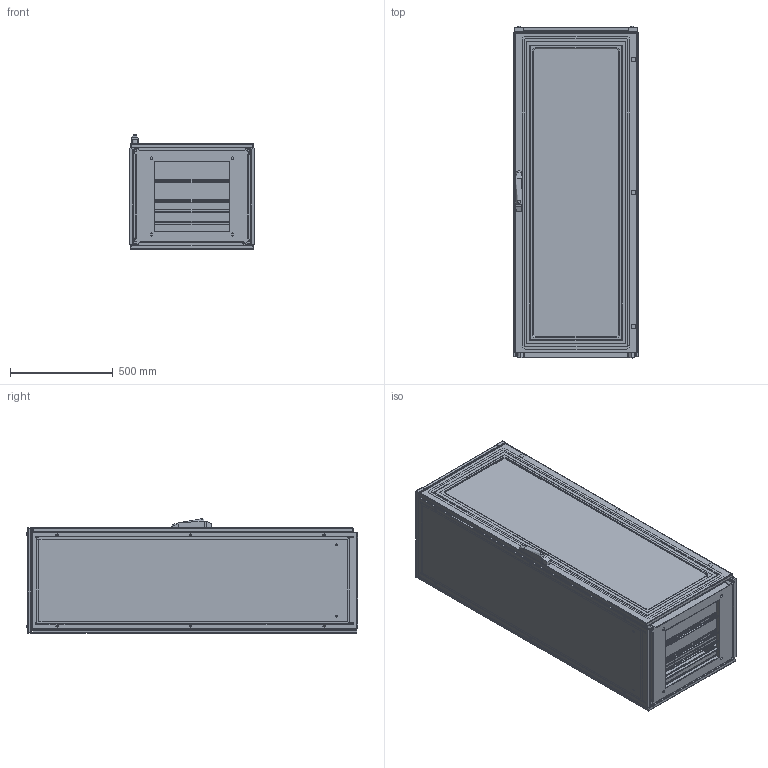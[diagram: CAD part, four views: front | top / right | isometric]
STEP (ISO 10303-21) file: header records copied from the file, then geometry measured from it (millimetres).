
FILE_DESCRIPTION (( 'STEP AP203' ), '1' );
FILE_NAME ('ENUX061605PV.STEP', '2025-05-29T08:10:50', ( '' ), ( '' ), 'SwSTEP 2.0', 'SolidWorks 2022', '' );
FILE_SCHEMA (( 'CONFIG_CONTROL_DESIGN' ));
Length unit declared in the file: millimetre
Products named in the file (13): AR_ENUX_Tetto_0600x0500; AR_ENUX_Retro_singolo_0600x1600; AR_ENUX_montaggio_porta_singlola_plexi_0600x1600_ANT_DX; AR_ENUX_nuova_maniglia_mesan; AR_ENUX_Tegolino_0600x0100; AR_ENUX_Porta_singola_plexi_0600x1600_ANT; AR_ENUX_Tegolino_0600x0050; ENUX061605PV; AR_ENUX_Fianco_0500x1600_SX; AR_ENUX_Vite_tetto; AR_ENUX_Fianco_0500x1600_DX; AR_ENUX_Plexiglass_porte_0600X1600; AR_ENUX_Struttura_0600x1600x0500
Assembly tree (17 placements, depth 3):
  ENUX061605PV
    AR_ENUX_Struttura_0600x1600x0500
    AR_ENUX_Retro_singolo_0600x1600
    AR_ENUX_Fianco_0500x1600_SX
    AR_ENUX_Fianco_0500x1600_DX
    AR_ENUX_Tetto_0600x0500
    AR_ENUX_Vite_tetto  x4
    AR_ENUX_montaggio_porta_singlola_plexi_0600x1600_ANT_DX
      AR_ENUX_Porta_singola_plexi_0600x1600_ANT
      AR_ENUX_Plexiglass_porte_0600X1600
      AR_ENUX_nuova_maniglia_mesan
    AR_ENUX_Tegolino_0600x0100  x2
    AR_ENUX_Tegolino_0600x0050  x2
Bounding box: 612 x 1615.1 x 557 mm (x, y, z)
Topology: 26 solids, 61 shells, 7414 faces, 20788 edges, 13333 vertices
Faces by surface type: plane 3931, cylinder 2639, bspline 365, torus 255, cone 156, sphere 68
Full cylindrical faces by diameter (mm): 2 x6, 4 x17
Entity records: 276506 total; most frequent: CARTESIAN_POINT 81829, ORIENTED_EDGE 40432, DIRECTION 38485, EDGE_CURVE 20216, VECTOR 13631, LINE 13631, VERTEX_POINT 13074, AXIS2_PLACEMENT_3D 12427
